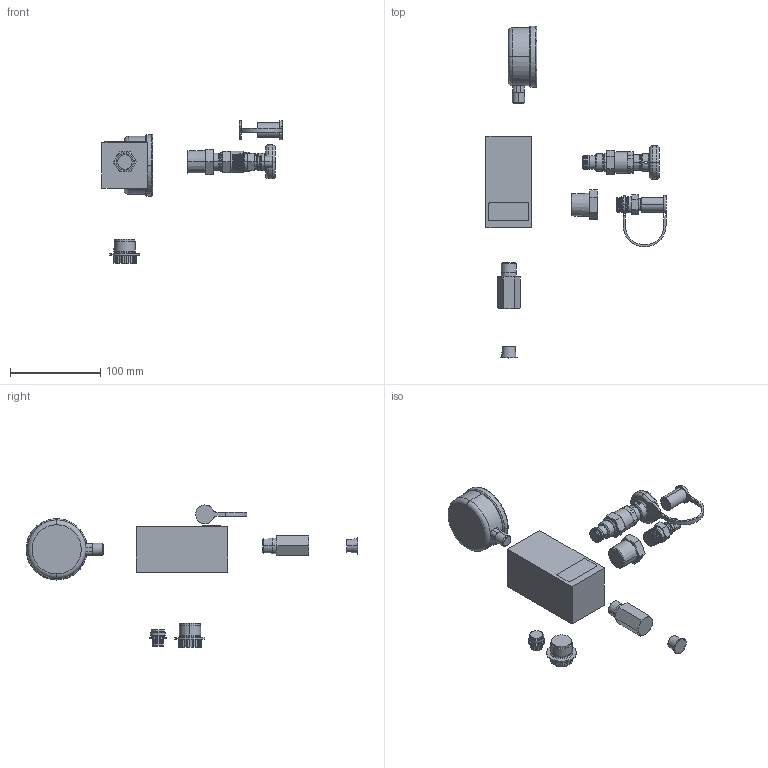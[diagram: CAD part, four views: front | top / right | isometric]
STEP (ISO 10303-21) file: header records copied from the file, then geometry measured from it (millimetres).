
FILE_DESCRIPTION((''),'2;1');
FILE_NAME('77X542-EN-R_PRT','2023-12-18T08:52:55',('qtmwp1'),(''),'CREO PARAMETRIC BY PTC INC, 2021072','CREO PARAMETRIC BY PTC INC, 2021072','');
FILE_SCHEMA(('CONFIG_CONTROL_DESIGN'));
Length unit declared in the file: inch
Products named in the file (1): 77X542-EN-R_PRT
Bounding box: 199.99 x 368.53 x 157.65 mm (x, y, z)
Surface area: 80129.8 mm2 (no closed solid volume)
Topology: 0 solids, 37 shells, 369 faces, 900 edges, 564 vertices
Faces by surface type: plane 142, cone 102, cylinder 93, torus 26, bspline 6
Entity records: 13854 total; most frequent: CARTESIAN_POINT 5384, DIRECTION 1835, ORIENTED_EDGE 1618, EDGE_CURVE 900, AXIS2_PLACEMENT_3D 720, VERTEX_POINT 564, VECTOR 395, LINE 395
